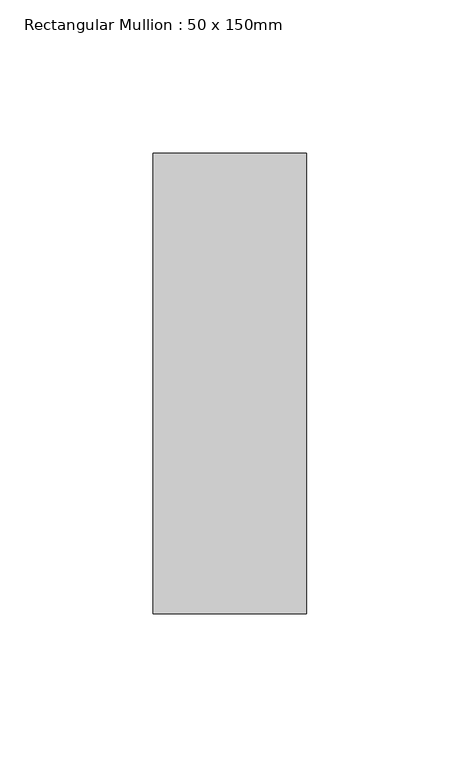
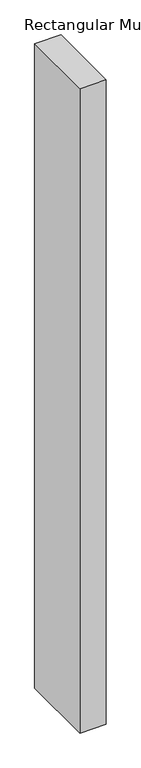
"""IFC4 building model written with IfcOpenShell, lengths in millimetres: member geometry, Rectangular Mullion : 50 x 150mm."""

from ifc_helpers import new_model, si_unit, frame, origin, place, context, project, spatial, polyline, outline, extrude, source, transform, mapped, element, save


def rectangular_mullion_50_x_150mm_c32e1d9f(model_context):
    return source(origin(), model_context, "Body", "SweptSolid", [
        extrude(outline(polyline([(25.0, 75.0), (25.0, -75.0), (-25.0, -75.0), (-25.0, 75.0), (25.0, 75.0)])), frame((0.0, 0.0, -1303.3202354), z_axis=(0.0, 0.0, 1.0), x_axis=(1.0, 0.0, 0.0)), (0.0, 0.0, 1.0), 1303.3202354),
    ])


if __name__ == "__main__":
    model = new_model("IFC4")
    model_context = context("Model", 3, world=origin())
    ifc_project = project(units=[si_unit("LENGTHUNIT", "METRE", prefix="MILLI")], contexts=[model_context])
    site = spatial("IfcSite", under=ifc_project)
    building = spatial("IfcBuilding", under=site)
    placement = place(None, origin())
    rectangular_mullion_50_x_150mm_shape = rectangular_mullion_50_x_150mm_c32e1d9f(model_context)
    element("IfcMember", 1, ObjectType="Rectangular Mullion : 50 x 150mm", at=placement, inside=building, context=model_context, shape_type="MappedRepresentation", body=[
        mapped(rectangular_mullion_50_x_150mm_shape, transform((0.0, 0.0, 0.0), x_axis=(1.0, 0.0, 0.0), y_axis=(0.0, 1.0, 0.0), z_axis=(0.0, 0.0, 1.0))),
    ])
    save(model, "model.ifc")
